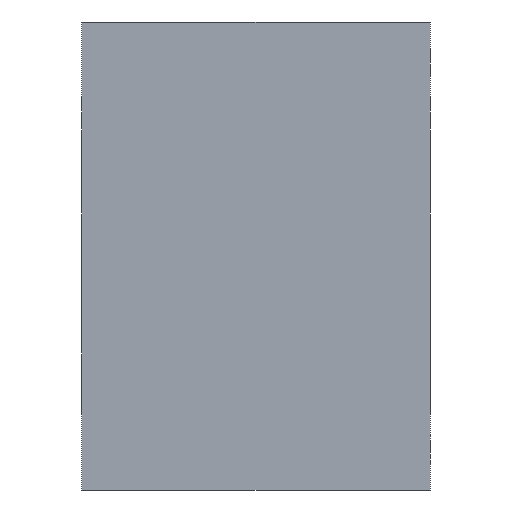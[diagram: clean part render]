
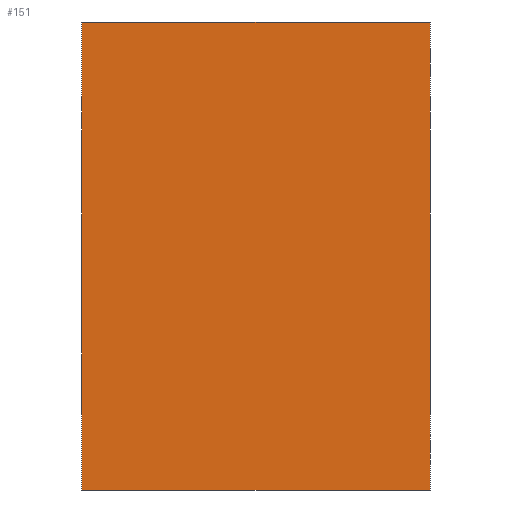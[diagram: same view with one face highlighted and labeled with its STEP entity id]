
A CAD part, front view. The second image highlights one B-rep face of the part: STEP entity #151.
In plain terms, the highlighted planar face has unit normal (0, -1, 0).
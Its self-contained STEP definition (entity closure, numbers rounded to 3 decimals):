
#107=PLANE('',#626);
#121=FACE_OUTER_BOUND('',#299,.T.);
#123=LINE('',#880,#135);
#124=LINE('',#883,#136);
#125=LINE('',#885,#137);
#126=LINE('',#887,#138);
#135=VECTOR('',#717,1.);
#136=VECTOR('',#718,1.);
#137=VECTOR('',#719,1.);
#138=VECTOR('',#720,1.);
#151=ADVANCED_FACE('',(#121),#107,.F.);
#299=EDGE_LOOP('',(#381,#382,#383,#384));
#381=ORIENTED_EDGE('',*,*,#533,.T.);
#382=ORIENTED_EDGE('',*,*,#534,.F.);
#383=ORIENTED_EDGE('',*,*,#535,.F.);
#384=ORIENTED_EDGE('',*,*,#536,.T.);
#481=VERTEX_POINT('',#881);
#482=VERTEX_POINT('',#882);
#483=VERTEX_POINT('',#884);
#484=VERTEX_POINT('',#886);
#533=EDGE_CURVE('',#481,#482,#123,.T.);
#534=EDGE_CURVE('',#483,#482,#124,.T.);
#535=EDGE_CURVE('',#484,#483,#125,.T.);
#536=EDGE_CURVE('',#484,#481,#126,.T.);
#626=AXIS2_PLACEMENT_3D('',#888,#721,#722);
#717=DIRECTION('',(0.,0.,1.));
#718=DIRECTION('',(1.,0.,0.));
#719=DIRECTION('',(0.,0.,1.));
#720=DIRECTION('',(1.,0.,0.));
#721=DIRECTION('',(0.,1.,0.));
#722=DIRECTION('',(0.,0.,1.));
#880=CARTESIAN_POINT('',(0.,-52.5,-43.));
#881=CARTESIAN_POINT('',(0.,-52.5,-43.));
#882=CARTESIAN_POINT('',(0.,-52.5,43.));
#883=CARTESIAN_POINT('',(-84.,-52.5,43.));
#884=CARTESIAN_POINT('',(-64.,-52.5,43.));
#885=CARTESIAN_POINT('',(-64.,-52.5,0.));
#886=CARTESIAN_POINT('',(-64.,-52.5,-43.));
#887=CARTESIAN_POINT('',(-84.,-52.5,-43.));
#888=CARTESIAN_POINT('',(-84.,-52.5,-43.));
